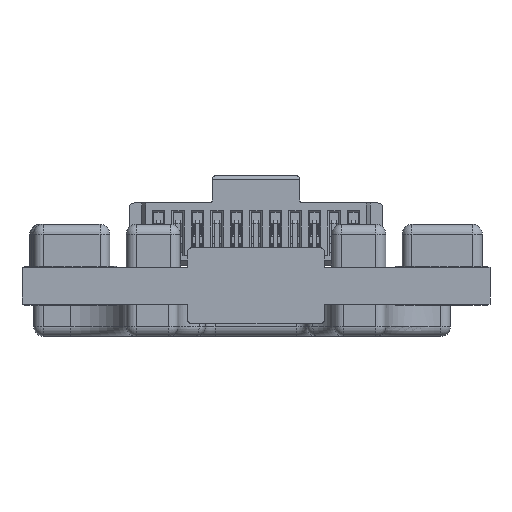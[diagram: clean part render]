
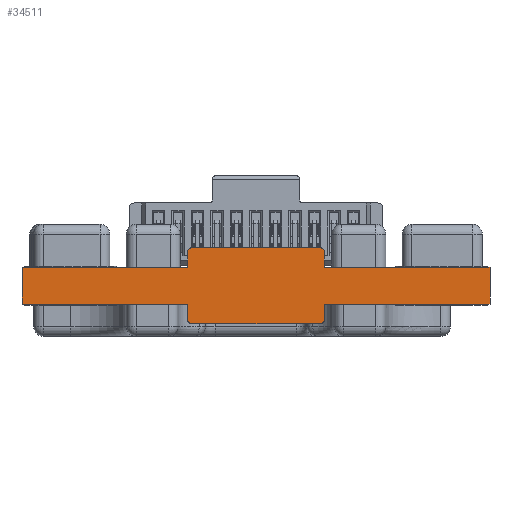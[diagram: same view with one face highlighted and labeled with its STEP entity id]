
A CAD part, front view. The second image highlights one B-rep face of the part: STEP entity #34511.
In plain terms, the highlighted planar face has unit normal (0, -1, 0).
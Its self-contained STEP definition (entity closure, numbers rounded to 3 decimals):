
#834 = FACE_OUTER_BOUND ( 'NONE', #13652, .T. ) ;
#1405 = CARTESIAN_POINT ( 'NONE',  ( -1.5, 1.65, -1.89 ) ) ;
#1463 = CARTESIAN_POINT ( 'NONE',  ( 14., 1.65, 0.8 ) ) ;
#1697 = CARTESIAN_POINT ( 'NONE',  ( 7.2, 1.65, 1. ) ) ;
#1951 = VERTEX_POINT ( 'NONE', #16316 ) ;
#2464 = AXIS2_PLACEMENT_3D ( 'NONE', #1405, #50196, #10632 ) ;
#3201 = DIRECTION ( 'NONE',  ( 0., 0., -1. ) ) ;
#3355 = ORIENTED_EDGE ( 'NONE', *, *, #32536, .F. ) ;
#4183 = CARTESIAN_POINT ( 'NONE',  ( 13.8, 1.65, 0.8 ) ) ;
#4452 = EDGE_CURVE ( 'NONE', #22007, #56813, #43092, .T. ) ;
#4569 = CIRCLE ( 'NONE', #26704, 0.2 ) ;
#4938 = VECTOR ( 'NONE', #39526, 1000. ) ;
#5715 = ORIENTED_EDGE ( 'NONE', *, *, #44766, .T. ) ;
#5817 = CARTESIAN_POINT ( 'NONE',  ( 22.5, 1.65, -1.89 ) ) ;
#5950 = EDGE_CURVE ( 'NONE', #15452, #6391, #34880, .T. ) ;
#6391 = VERTEX_POINT ( 'NONE', #44029 ) ;
#6591 = DIRECTION ( 'NONE',  ( 1., 0., 0. ) ) ;
#7761 = DIRECTION ( 'NONE',  ( 0., 0., -1. ) ) ;
#9221 = DIRECTION ( 'NONE',  ( 0., 0., 1. ) ) ;
#9266 = AXIS2_PLACEMENT_3D ( 'NONE', #4183, #16918, #21812 ) ;
#9554 = AXIS2_PLACEMENT_3D ( 'NONE', #43871, #34930, #26282 ) ;
#9762 = CARTESIAN_POINT ( 'NONE',  ( -1.5, 1.65, -1.89 ) ) ;
#10107 = VECTOR ( 'NONE', #29710, 1000. ) ;
#10632 = DIRECTION ( 'NONE',  ( 1., 0., 0. ) ) ;
#10718 = DIRECTION ( 'NONE',  ( 0., 0., 1. ) ) ;
#11765 = CARTESIAN_POINT ( 'NONE',  ( 7.2, 1.65, -2.89 ) ) ;
#11976 = VERTEX_POINT ( 'NONE', #36541 ) ;
#13652 = EDGE_LOOP ( 'NONE', ( #53957, #21525, #31242, #3355, #24484, #41906, #50180, #22426, #20007, #35008, #16788, #20055, #23887, #5715, #26202, #23036 ) ) ;
#15264 = CARTESIAN_POINT ( 'NONE',  ( -1.5, 1.65, -1.89 ) ) ;
#15411 = DIRECTION ( 'NONE',  ( 1., 0., 0. ) ) ;
#15452 = VERTEX_POINT ( 'NONE', #1463 ) ;
#15744 = EDGE_CURVE ( 'NONE', #15917, #40554, #34435, .T. ) ;
#15917 = VERTEX_POINT ( 'NONE', #23925 ) ;
#16097 = DIRECTION ( 'NONE',  ( 1., 0., 0. ) ) ;
#16316 = CARTESIAN_POINT ( 'NONE',  ( -1.5, 1.65, 0. ) ) ;
#16636 = DIRECTION ( 'NONE',  ( 0., 0., 1. ) ) ;
#16788 = ORIENTED_EDGE ( 'NONE', *, *, #50141, .T. ) ;
#16882 = EDGE_CURVE ( 'NONE', #6391, #38499, #19759, .T. ) ;
#16918 = DIRECTION ( 'NONE',  ( 0., -1., 0. ) ) ;
#19759 = LINE ( 'NONE', #37339, #50428 ) ;
#20007 = ORIENTED_EDGE ( 'NONE', *, *, #16882, .F. ) ;
#20055 = ORIENTED_EDGE ( 'NONE', *, *, #56128, .F. ) ;
#20715 = LINE ( 'NONE', #46683, #49032 ) ;
#21525 = ORIENTED_EDGE ( 'NONE', *, *, #23195, .F. ) ;
#21812 = DIRECTION ( 'NONE',  ( 0., 0., 1. ) ) ;
#22007 = VERTEX_POINT ( 'NONE', #45812 ) ;
#22426 = ORIENTED_EDGE ( 'NONE', *, *, #26528, .T. ) ;
#22654 = CARTESIAN_POINT ( 'NONE',  ( 13.8, 1.65, 1. ) ) ;
#22710 = CARTESIAN_POINT ( 'NONE',  ( 7., 1.65, 0.8 ) ) ;
#22989 = EDGE_CURVE ( 'NONE', #30955, #42130, #20715, .T. ) ;
#23036 = ORIENTED_EDGE ( 'NONE', *, *, #45678, .F. ) ;
#23195 = EDGE_CURVE ( 'NONE', #15917, #11976, #30220, .T. ) ;
#23383 = VERTEX_POINT ( 'NONE', #22710 ) ;
#23887 = ORIENTED_EDGE ( 'NONE', *, *, #56609, .T. ) ;
#23925 = CARTESIAN_POINT ( 'NONE',  ( 7., 1.65, -2.69 ) ) ;
#24484 = ORIENTED_EDGE ( 'NONE', *, *, #4452, .T. ) ;
#24936 = CIRCLE ( 'NONE', #9266, 0.2 ) ;
#25016 = DIRECTION ( 'NONE',  ( 0., 0., -1. ) ) ;
#26202 = ORIENTED_EDGE ( 'NONE', *, *, #41191, .F. ) ;
#26282 = DIRECTION ( 'NONE',  ( 0., 0., -1. ) ) ;
#26393 = VECTOR ( 'NONE', #40170, 1000. ) ;
#26402 = DIRECTION ( 'NONE',  ( 0., -1., 0. ) ) ;
#26528 = EDGE_CURVE ( 'NONE', #42130, #38499, #48771, .T. ) ;
#26704 = AXIS2_PLACEMENT_3D ( 'NONE', #30446, #26402, #39114 ) ;
#27125 = VECTOR ( 'NONE', #3201, 1000. ) ;
#27636 = EDGE_CURVE ( 'NONE', #33585, #11976, #33147, .T. ) ;
#27901 = CARTESIAN_POINT ( 'NONE',  ( 22.5, 1.65, -1.89 ) ) ;
#28468 = VECTOR ( 'NONE', #10718, 1000. ) ;
#29152 = VECTOR ( 'NONE', #6591, 1000. ) ;
#29710 = DIRECTION ( 'NONE',  ( -1., 0., 0. ) ) ;
#30220 = LINE ( 'NONE', #57073, #54545 ) ;
#30272 = LINE ( 'NONE', #56851, #10107 ) ;
#30446 = CARTESIAN_POINT ( 'NONE',  ( 7.2, 1.65, 0.8 ) ) ;
#30914 = VERTEX_POINT ( 'NONE', #22654 ) ;
#30955 = VERTEX_POINT ( 'NONE', #36172 ) ;
#31242 = ORIENTED_EDGE ( 'NONE', *, *, #15744, .T. ) ;
#32003 = PLANE ( 'NONE',  #2464 ) ;
#32536 = EDGE_CURVE ( 'NONE', #22007, #40554, #30272, .T. ) ;
#32669 = CARTESIAN_POINT ( 'NONE',  ( 14., 1.65, -2.89 ) ) ;
#33147 = LINE ( 'NONE', #15264, #29152 ) ;
#33585 = VERTEX_POINT ( 'NONE', #9762 ) ;
#34011 = CARTESIAN_POINT ( 'NONE',  ( 14., 1.65, 1. ) ) ;
#34375 = VERTEX_POINT ( 'NONE', #53223 ) ;
#34435 = CIRCLE ( 'NONE', #9554, 0.2 ) ;
#34511 = ADVANCED_FACE ( 'NONE', ( #834 ), #32003, .F. ) ;
#34880 = LINE ( 'NONE', #34011, #40235 ) ;
#34930 = DIRECTION ( 'NONE',  ( 0., -1., 0. ) ) ;
#35008 = ORIENTED_EDGE ( 'NONE', *, *, #5950, .F. ) ;
#36172 = CARTESIAN_POINT ( 'NONE',  ( 14., 1.65, -1.89 ) ) ;
#36541 = CARTESIAN_POINT ( 'NONE',  ( 7., 1.65, -1.89 ) ) ;
#36800 = EDGE_CURVE ( 'NONE', #56813, #30955, #50868, .T. ) ;
#37160 = VERTEX_POINT ( 'NONE', #1697 ) ;
#37339 = CARTESIAN_POINT ( 'NONE',  ( -1.5, 1.65, 0. ) ) ;
#38499 = VERTEX_POINT ( 'NONE', #54146 ) ;
#38549 = CARTESIAN_POINT ( 'NONE',  ( -1.5, 1.65, -1.89 ) ) ;
#39114 = DIRECTION ( 'NONE',  ( 0., 0., 1. ) ) ;
#39526 = DIRECTION ( 'NONE',  ( 1., 0., 0. ) ) ;
#40170 = DIRECTION ( 'NONE',  ( 1., 0., 0. ) ) ;
#40235 = VECTOR ( 'NONE', #7761, 1000. ) ;
#40445 = LINE ( 'NONE', #53178, #26393 ) ;
#40554 = VERTEX_POINT ( 'NONE', #11765 ) ;
#41191 = EDGE_CURVE ( 'NONE', #1951, #34375, #40445, .T. ) ;
#41906 = ORIENTED_EDGE ( 'NONE', *, *, #36800, .T. ) ;
#42130 = VERTEX_POINT ( 'NONE', #5817 ) ;
#43092 = CIRCLE ( 'NONE', #47731, 0.2 ) ;
#43193 = DIRECTION ( 'NONE',  ( 0., 0., 1. ) ) ;
#43283 = LINE ( 'NONE', #43852, #4938 ) ;
#43852 = CARTESIAN_POINT ( 'NONE',  ( 7., 1.65, 1. ) ) ;
#43871 = CARTESIAN_POINT ( 'NONE',  ( 7.2, 1.65, -2.69 ) ) ;
#44029 = CARTESIAN_POINT ( 'NONE',  ( 14., 1.65, 0. ) ) ;
#44497 = VECTOR ( 'NONE', #16636, 1000. ) ;
#44766 = EDGE_CURVE ( 'NONE', #23383, #34375, #51423, .T. ) ;
#45678 = EDGE_CURVE ( 'NONE', #33585, #1951, #47239, .T. ) ;
#45812 = CARTESIAN_POINT ( 'NONE',  ( 13.8, 1.65, -2.89 ) ) ;
#46683 = CARTESIAN_POINT ( 'NONE',  ( -1.5, 1.65, -1.89 ) ) ;
#47239 = LINE ( 'NONE', #38549, #44497 ) ;
#47731 = AXIS2_PLACEMENT_3D ( 'NONE', #56490, #51873, #25016 ) ;
#48771 = LINE ( 'NONE', #27901, #51254 ) ;
#49032 = VECTOR ( 'NONE', #16097, 1000. ) ;
#50141 = EDGE_CURVE ( 'NONE', #15452, #30914, #24936, .T. ) ;
#50180 = ORIENTED_EDGE ( 'NONE', *, *, #22989, .T. ) ;
#50196 = DIRECTION ( 'NONE',  ( 0., 1., 0. ) ) ;
#50428 = VECTOR ( 'NONE', #15411, 1000. ) ;
#50868 = LINE ( 'NONE', #32669, #28468 ) ;
#51254 = VECTOR ( 'NONE', #9221, 1000. ) ;
#51423 = LINE ( 'NONE', #55772, #27125 ) ;
#51873 = DIRECTION ( 'NONE',  ( 0., -1., 0. ) ) ;
#53178 = CARTESIAN_POINT ( 'NONE',  ( -1.5, 1.65, 0. ) ) ;
#53223 = CARTESIAN_POINT ( 'NONE',  ( 7., 1.65, 0. ) ) ;
#53957 = ORIENTED_EDGE ( 'NONE', *, *, #27636, .T. ) ;
#54146 = CARTESIAN_POINT ( 'NONE',  ( 22.5, 1.65, 0. ) ) ;
#54545 = VECTOR ( 'NONE', #43193, 1000. ) ;
#55226 = CARTESIAN_POINT ( 'NONE',  ( 14., 1.65, -2.69 ) ) ;
#55772 = CARTESIAN_POINT ( 'NONE',  ( 7., 1.65, 1. ) ) ;
#56128 = EDGE_CURVE ( 'NONE', #37160, #30914, #43283, .T. ) ;
#56490 = CARTESIAN_POINT ( 'NONE',  ( 13.8, 1.65, -2.69 ) ) ;
#56609 = EDGE_CURVE ( 'NONE', #37160, #23383, #4569, .T. ) ;
#56813 = VERTEX_POINT ( 'NONE', #55226 ) ;
#56851 = CARTESIAN_POINT ( 'NONE',  ( 14., 1.65, -2.89 ) ) ;
#57073 = CARTESIAN_POINT ( 'NONE',  ( 7., 1.65, -2.89 ) ) ;
